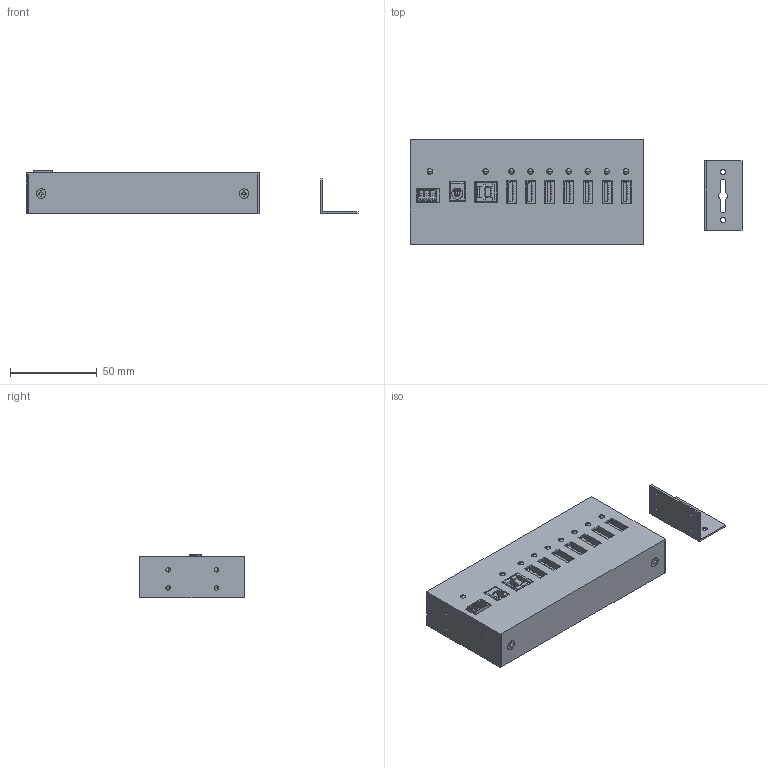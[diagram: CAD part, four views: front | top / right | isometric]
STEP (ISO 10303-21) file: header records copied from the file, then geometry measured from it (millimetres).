
FILE_DESCRIPTION(('FreeCAD Model'),'2;1');
FILE_NAME('Open CASCADE Shape Model','2022-09-13T16:11:26',(''),(''), 'Open CASCADE STEP processor 7.6','FreeCAD','Unknown');
FILE_SCHEMA(('AUTOMOTIVE_DESIGN { 1 0 10303 214 1 1 1 1 }'));
Length unit declared in the file: millimetre
Products named in the file (3): EX_11247HMS_3D; EX-11247HMS_3D; Wallmount-Kit
Assembly tree (2 placements, depth 2):
  EX_11247HMS_3D
    EX-11247HMS_3D
    Wallmount-Kit
Bounding box: 191.45 x 60.3 x 25 mm (x, y, z)
Volume: 45633.5 mm3; surface area: 84145.6 mm2
Topology: 12 solids, 13 shells, 3258 faces, 9205 edges, 6142 vertices
Faces by surface type: plane 2452, cylinder 548, cone 118, torus 96, sphere 34, revolution 6, bspline 4
Full cylindrical faces by diameter (mm): 1.567 x6, 1.8 x1, 2 x7, 2.459 x4, 2.6 x28, 3 x19, 3.2 x15, 4 x21, 5.5 x4, 6.4 x1
Entity records: 311601 total; most frequent: CARTESIAN_POINT 119748, DIRECTION 29793, LINE 18477, VECTOR 18477, ORIENTED_EDGE 18342, PCURVE 18342, DEFINITIONAL_REPRESENTATION 18342, EDGE_CURVE 9171
